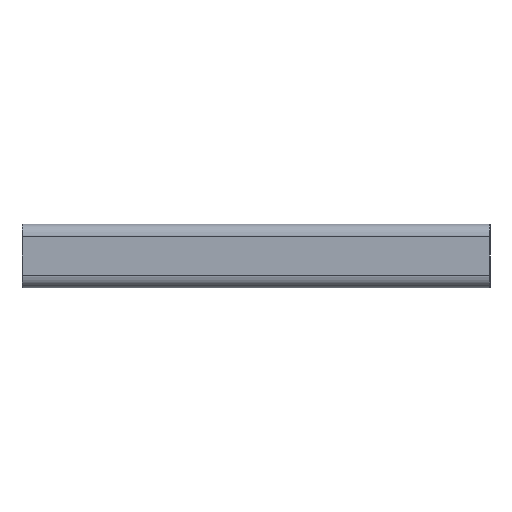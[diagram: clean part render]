
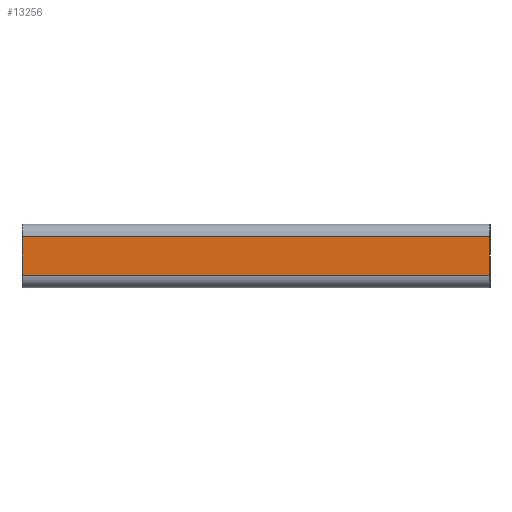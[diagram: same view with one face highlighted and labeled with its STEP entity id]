
A CAD part, left-side view. The second image highlights one B-rep face of the part: STEP entity #13256.
In plain terms, the highlighted planar face has unit normal (-1, 0, 0).
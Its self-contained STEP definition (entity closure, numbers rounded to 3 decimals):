
#2040 = VERTEX_POINT ( 'NONE', #4421 ) ;
#2175 = AXIS2_PLACEMENT_3D ( 'NONE', #6283, #12656, #8840 ) ;
#2221 = FACE_OUTER_BOUND ( 'NONE', #9156, .T. ) ;
#3505 = VERTEX_POINT ( 'NONE', #3722 ) ;
#3722 = CARTESIAN_POINT ( 'NONE',  ( -55., 55., 3. ) ) ;
#4421 = CARTESIAN_POINT ( 'NONE',  ( -55., 55., 12. ) ) ;
#4886 = LINE ( 'NONE', #9915, #10089 ) ;
#5296 = LINE ( 'NONE', #6663, #13606 ) ;
#6157 = DIRECTION ( 'NONE',  ( 0., 0., 1. ) ) ;
#6283 = CARTESIAN_POINT ( 'NONE',  ( -55., 0., 0. ) ) ;
#6404 = DIRECTION ( 'NONE',  ( 0., 0., -1. ) ) ;
#6663 = CARTESIAN_POINT ( 'NONE',  ( -55., 55., 0. ) ) ;
#6937 = DIRECTION ( 'NONE',  ( 0., 1., 0. ) ) ;
#7475 = PLANE ( 'NONE',  #2175 ) ;
#8142 = LINE ( 'NONE', #9419, #15247 ) ;
#8754 = ORIENTED_EDGE ( 'NONE', *, *, #15320, .T. ) ;
#8840 = DIRECTION ( 'NONE',  ( 0., 0., -1. ) ) ;
#9156 = EDGE_LOOP ( 'NONE', ( #13898, #14090, #14068, #8754 ) ) ;
#9419 = CARTESIAN_POINT ( 'NONE',  ( -55., 55., 3. ) ) ;
#9655 = LINE ( 'NONE', #13311, #15763 ) ;
#9915 = CARTESIAN_POINT ( 'NONE',  ( -55., -55., 0. ) ) ;
#10089 = VECTOR ( 'NONE', #6157, 1000. ) ;
#10783 = CARTESIAN_POINT ( 'NONE',  ( -55., -55., 12. ) ) ;
#12461 = CARTESIAN_POINT ( 'NONE',  ( -55., -55., 3. ) ) ;
#12541 = VERTEX_POINT ( 'NONE', #12461 ) ;
#12656 = DIRECTION ( 'NONE',  ( 1., 0., 0. ) ) ;
#13256 = ADVANCED_FACE ( 'NONE', ( #2221 ), #7475, .F. ) ;
#13311 = CARTESIAN_POINT ( 'NONE',  ( -55., -55., 12. ) ) ;
#13564 = VERTEX_POINT ( 'NONE', #10783 ) ;
#13606 = VECTOR ( 'NONE', #6404, 1000. ) ;
#13898 = ORIENTED_EDGE ( 'NONE', *, *, #14001, .T. ) ;
#14001 = EDGE_CURVE ( 'NONE', #13564, #2040, #9655, .T. ) ;
#14068 = ORIENTED_EDGE ( 'NONE', *, *, #14573, .F. ) ;
#14090 = ORIENTED_EDGE ( 'NONE', *, *, #14214, .T. ) ;
#14214 = EDGE_CURVE ( 'NONE', #2040, #3505, #5296, .T. ) ;
#14573 = EDGE_CURVE ( 'NONE', #12541, #3505, #8142, .T. ) ;
#15247 = VECTOR ( 'NONE', #15640, 1000. ) ;
#15320 = EDGE_CURVE ( 'NONE', #12541, #13564, #4886, .T. ) ;
#15640 = DIRECTION ( 'NONE',  ( 0., 1., 0. ) ) ;
#15763 = VECTOR ( 'NONE', #6937, 1000. ) ;
